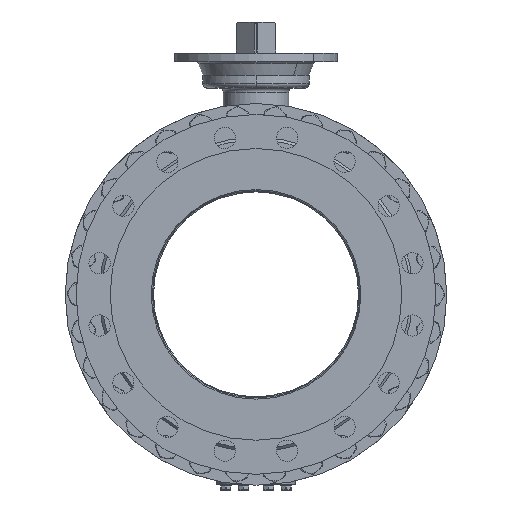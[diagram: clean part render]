
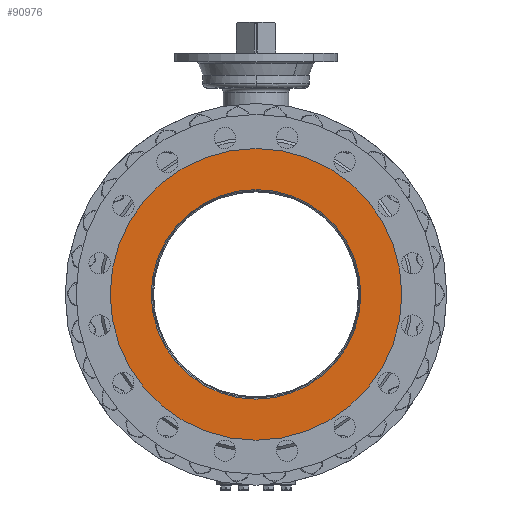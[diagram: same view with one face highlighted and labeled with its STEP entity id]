
A CAD part, left-side view. The second image highlights one B-rep face of the part: STEP entity #90976.
In plain terms, the highlighted planar face has unit normal (-1, 0, 0).
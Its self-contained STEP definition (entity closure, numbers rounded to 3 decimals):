
#14317=CARTESIAN_POINT('',(-419.,0.,0.));
#14318=DIRECTION('',(1.,0.,0.));
#14319=DIRECTION('',(0.,0.,1.));
#14320=AXIS2_PLACEMENT_3D('',#14317,#14318,#14319);
#14322=CARTESIAN_POINT('',(-419.,0.,0.));
#14323=DIRECTION('',(1.,0.,0.));
#14324=DIRECTION('',(0.,0.,-1.));
#14325=AXIS2_PLACEMENT_3D('',#14322,#14323,#14324);
#14327=CARTESIAN_POINT('',(-419.,0.,0.));
#14328=DIRECTION('',(1.,0.,0.));
#14329=DIRECTION('',(0.,0.,1.));
#14330=AXIS2_PLACEMENT_3D('',#14327,#14328,#14329);
#14332=CARTESIAN_POINT('',(-419.,0.,0.));
#14333=DIRECTION('',(-1.,0.,0.));
#14334=DIRECTION('',(0.,0.,1.));
#14335=AXIS2_PLACEMENT_3D('',#14332,#14333,#14334);
#63112=CARTESIAN_POINT('',(-419.,0.,192.2));
#63113=CARTESIAN_POINT('',(-419.,0.,-192.2));
#63114=VERTEX_POINT('',#63112);
#63115=VERTEX_POINT('',#63113);
#63140=CARTESIAN_POINT('',(-419.,0.,267.5));
#63141=CARTESIAN_POINT('',(-419.,0.,-267.5));
#63142=VERTEX_POINT('',#63140);
#63143=VERTEX_POINT('',#63141);
#90961=CARTESIAN_POINT('',(-419.,0.,0.));
#90962=DIRECTION('',(-1.,0.,0.));
#90963=DIRECTION('',(0.,0.,-1.));
#90964=AXIS2_PLACEMENT_3D('',#90961,#90962,#90963);
#90965=PLANE('',#90964);
#90967=ORIENTED_EDGE('',*,*,#90966,.T.);
#90969=ORIENTED_EDGE('',*,*,#90968,.T.);
#90970=EDGE_LOOP('',(#90967,#90969));
#90971=FACE_OUTER_BOUND('',#90970,.F.);
#90972=ORIENTED_EDGE('',*,*,#90940,.F.);
#90973=ORIENTED_EDGE('',*,*,#90954,.T.);
#90974=EDGE_LOOP('',(#90972,#90973));
#90975=FACE_BOUND('',#90974,.F.);
#90976=ADVANCED_FACE('',(#90971,#90975),#90965,.T.);
#14321=CIRCLE('',#14320,267.5);
#14326=CIRCLE('',#14325,267.5);
#14331=CIRCLE('',#14330,192.2);
#14336=CIRCLE('',#14335,192.2);
#90940=EDGE_CURVE('',#63114,#63115,#14331,.T.);
#90954=EDGE_CURVE('',#63114,#63115,#14336,.T.);
#90966=EDGE_CURVE('',#63142,#63143,#14321,.T.);
#90968=EDGE_CURVE('',#63143,#63142,#14326,.T.);
